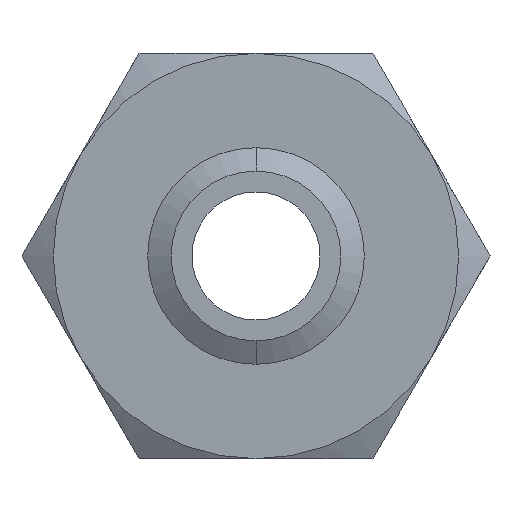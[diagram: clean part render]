
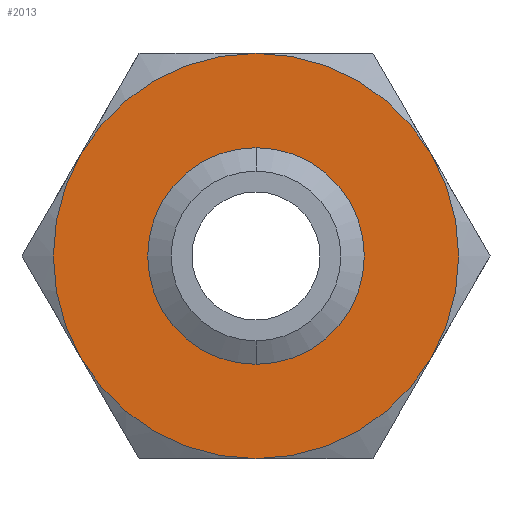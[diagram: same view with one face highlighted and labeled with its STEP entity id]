
A CAD part, front view. The second image highlights one B-rep face of the part: STEP entity #2013.
In plain terms, the highlighted planar face has unit normal (0, -1, 0).
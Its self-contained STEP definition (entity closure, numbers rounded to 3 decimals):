
#194 = VERTEX_POINT ( 'NONE', #828 ) ;
#248 = EDGE_CURVE ( 'NONE', #194, #249, #921, .T. ) ;
#249 = VERTEX_POINT ( 'NONE', #916 ) ;
#828 = CARTESIAN_POINT ( 'NONE',  ( 0., 0., -19.901 ) ) ;
#916 = CARTESIAN_POINT ( 'NONE',  ( 0., 0., 19.901 ) ) ;
#917 = DIRECTION ( 'NONE',  ( 0., 0., -1. ) ) ;
#918 = DIRECTION ( 'NONE',  ( 0., -1., 0. ) ) ;
#919 = CARTESIAN_POINT ( 'NONE',  ( 0., 0., 0. ) ) ;
#920 = AXIS2_PLACEMENT_3D ( 'NONE', #919, #918, #917 ) ;
#921 = CIRCLE ( 'NONE', #920, 19.901 ) ;
#1089 = DIRECTION ( 'NONE',  ( 0., 0., 1. ) ) ;
#1090 = DIRECTION ( 'NONE',  ( 0., 1., 0. ) ) ;
#1091 = CARTESIAN_POINT ( 'NONE',  ( 0., 0., 0. ) ) ;
#1092 = AXIS2_PLACEMENT_3D ( 'NONE', #1091, #1090, #1089 ) ;
#1093 = CIRCLE ( 'NONE', #1092, 47.5 ) ;
#1094 = DIRECTION ( 'NONE',  ( 0., 0., 1. ) ) ;
#1095 = DIRECTION ( 'NONE',  ( 0., 1., 0. ) ) ;
#1096 = CARTESIAN_POINT ( 'NONE',  ( 0., 0., 0. ) ) ;
#1097 = AXIS2_PLACEMENT_3D ( 'NONE', #1096, #1095, #1094 ) ;
#1098 = CIRCLE ( 'NONE', #1097, 47.5 ) ;
#1100 = DIRECTION ( 'NONE',  ( 0., 0., -1. ) ) ;
#1101 = DIRECTION ( 'NONE',  ( 0., -1., 0. ) ) ;
#1102 = CARTESIAN_POINT ( 'NONE',  ( 0., 0., 0. ) ) ;
#1103 = AXIS2_PLACEMENT_3D ( 'NONE', #1102, #1101, #1100 ) ;
#1104 = CIRCLE ( 'NONE', #1103, 19.901 ) ;
#1105 = DIRECTION ( 'NONE',  ( 0., 0., 1. ) ) ;
#1106 = DIRECTION ( 'NONE',  ( 0., 1., 0. ) ) ;
#1107 = CARTESIAN_POINT ( 'NONE',  ( 0., 0., 0. ) ) ;
#1108 = AXIS2_PLACEMENT_3D ( 'NONE', #1107, #1106, #1105 ) ;
#1109 = CIRCLE ( 'NONE', #1108, 47.5 ) ;
#1110 = CARTESIAN_POINT ( 'NONE',  ( 41.136, 0., -23.75 ) ) ;
#1514 = CARTESIAN_POINT ( 'NONE',  ( -41.136, 0., 23.75 ) ) ;
#1515 = FACE_BOUND ( 'NONE', #1756, .T. ) ;
#1516 = FACE_OUTER_BOUND ( 'NONE', #1997, .T. ) ;
#1523 = CARTESIAN_POINT ( 'NONE',  ( -41.136, 0., -23.75 ) ) ;
#1524 = DIRECTION ( 'NONE',  ( 0., 0., 1. ) ) ;
#1525 = DIRECTION ( 'NONE',  ( 0., 1., 0. ) ) ;
#1526 = CARTESIAN_POINT ( 'NONE',  ( 0., 0., 0. ) ) ;
#1527 = AXIS2_PLACEMENT_3D ( 'NONE', #1526, #1525, #1524 ) ;
#1528 = CIRCLE ( 'NONE', #1527, 47.5 ) ;
#1529 = CARTESIAN_POINT ( 'NONE',  ( 0., 0., 47.5 ) ) ;
#1571 = DIRECTION ( 'NONE',  ( 0., 0., 1. ) ) ;
#1572 = DIRECTION ( 'NONE',  ( 0., 1., 0. ) ) ;
#1573 = CARTESIAN_POINT ( 'NONE',  ( 27.424, 0., -47.5 ) ) ;
#1574 = AXIS2_PLACEMENT_3D ( 'NONE', #1573, #1572, #1571 ) ;
#1575 = PLANE ( 'NONE',  #1574 ) ;
#1601 = CARTESIAN_POINT ( 'NONE',  ( 0., 0., -47.5 ) ) ;
#1627 = CARTESIAN_POINT ( 'NONE',  ( 41.136, 0., 23.75 ) ) ;
#1628 = DIRECTION ( 'NONE',  ( 0., 0., 1. ) ) ;
#1629 = DIRECTION ( 'NONE',  ( 0., 1., 0. ) ) ;
#1630 = CARTESIAN_POINT ( 'NONE',  ( 0., 0., 0. ) ) ;
#1631 = AXIS2_PLACEMENT_3D ( 'NONE', #1630, #1629, #1628 ) ;
#1632 = CIRCLE ( 'NONE', #1631, 47.5 ) ;
#1633 = DIRECTION ( 'NONE',  ( 0., 0., 1. ) ) ;
#1634 = DIRECTION ( 'NONE',  ( 0., 1., 0. ) ) ;
#1635 = CARTESIAN_POINT ( 'NONE',  ( 0., 0., 0. ) ) ;
#1636 = AXIS2_PLACEMENT_3D ( 'NONE', #1635, #1634, #1633 ) ;
#1637 = CIRCLE ( 'NONE', #1636, 47.5 ) ;
#1754 = ORIENTED_EDGE ( 'NONE', *, *, #1760, .F. ) ;
#1755 = ORIENTED_EDGE ( 'NONE', *, *, #248, .F. ) ;
#1756 = EDGE_LOOP ( 'NONE', ( #1755, #1754 ) ) ;
#1757 = VERTEX_POINT ( 'NONE', #1110 ) ;
#1758 = EDGE_CURVE ( 'NONE', #2048, #1757, #1109, .T. ) ;
#1759 = ORIENTED_EDGE ( 'NONE', *, *, #1758, .F. ) ;
#1760 = EDGE_CURVE ( 'NONE', #249, #194, #1104, .T. ) ;
#1763 = EDGE_CURVE ( 'NONE', #2036, #2003, #1098, .T. ) ;
#1764 = EDGE_CURVE ( 'NONE', #1757, #2036, #1093, .T. ) ;
#1765 = ORIENTED_EDGE ( 'NONE', *, *, #1764, .F. ) ;
#1997 = EDGE_LOOP ( 'NONE', ( #2001, #2049, #2010, #2035, #1765, #1759 ) ) ;
#1998 = EDGE_CURVE ( 'NONE', #1999, #2048, #1528, .T. ) ;
#1999 = VERTEX_POINT ( 'NONE', #1529 ) ;
#2001 = ORIENTED_EDGE ( 'NONE', *, *, #1998, .F. ) ;
#2003 = VERTEX_POINT ( 'NONE', #1523 ) ;
#2009 = VERTEX_POINT ( 'NONE', #1514 ) ;
#2010 = ORIENTED_EDGE ( 'NONE', *, *, #2044, .F. ) ;
#2013 = ADVANCED_FACE ( 'NONE', ( #1516, #1515 ), #1575, .F. ) ;
#2035 = ORIENTED_EDGE ( 'NONE', *, *, #1763, .F. ) ;
#2036 = VERTEX_POINT ( 'NONE', #1601 ) ;
#2044 = EDGE_CURVE ( 'NONE', #2003, #2009, #1637, .T. ) ;
#2046 = EDGE_CURVE ( 'NONE', #2009, #1999, #1632, .T. ) ;
#2048 = VERTEX_POINT ( 'NONE', #1627 ) ;
#2049 = ORIENTED_EDGE ( 'NONE', *, *, #2046, .F. ) ;
